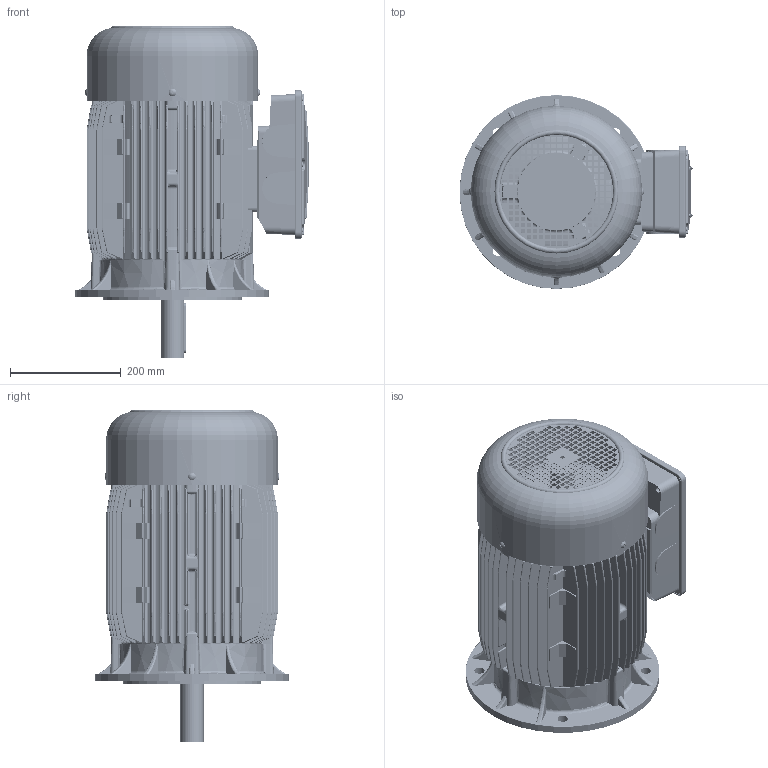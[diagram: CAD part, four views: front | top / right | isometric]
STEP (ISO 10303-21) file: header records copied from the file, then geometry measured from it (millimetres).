
FILE_DESCRIPTION (( 'STEP AP214' ), '1' );
FILE_NAME ('SM 160 M B5.STEP', '2018-04-12T12:43:13', ( '' ), ( '' ), 'SwSTEP 2.0', 'SolidWorks 2018', '' );
FILE_SCHEMA (( 'AUTOMOTIVE_DESIGN' ));
Length unit declared in the file: millimetre
Products named in the file (11): SM 160 M B5; Cuffia SM 160; Scudo Lato Comando B3 160 - D6AB0094; Chiavetta 160; Vite M4x25; Vite testa rotonda M6; Albero SM 160 M; Scudo a flangia B5 Fi 350 BA 160 - D6AA0094; Scatola Morsettiera Doppia BA 160 - 180 - 200 - D6A70299; Coperchio Scatola Morsettiera Doppia BA 160 - 180 - 200 - D6A60099; Carcassa 160 M B5
Assembly tree (18 placements, depth 2):
  SM 160 M B5
    Carcassa 160 M B5
    Coperchio Scatola Morsettiera Doppia BA 160 - 180 - 200 - D6A60099
    Scatola Morsettiera Doppia BA 160 - 180 - 200 - D6A70299
    Scudo a flangia B5 Fi 350 BA 160 - D6AA0094
    Albero SM 160 M
    Vite testa rotonda M6  x4
    Vite M4x25  x6
    Chiavetta 160
    Scudo Lato Comando B3 160 - D6AB0094
    Cuffia SM 160
Bounding box: 420.49 x 350 x 599 mm (x, y, z)
Volume: 7885010.1 mm3; surface area: 2446547 mm2
Topology: 18 solids, 18 shells, 5850 faces, 16202 edges, 10328 vertices
Faces by surface type: cylinder 2624, plane 1756, bspline 568, torus 516, cone 340, sphere 46
Entity records: 236931 total; most frequent: CARTESIAN_POINT 138068, ORIENTED_EDGE 22178, DIRECTION 17457, EDGE_CURVE 11089, VERTEX_POINT 7089, AXIS2_PLACEMENT_3D 5978, LINE 5501, VECTOR 5501
